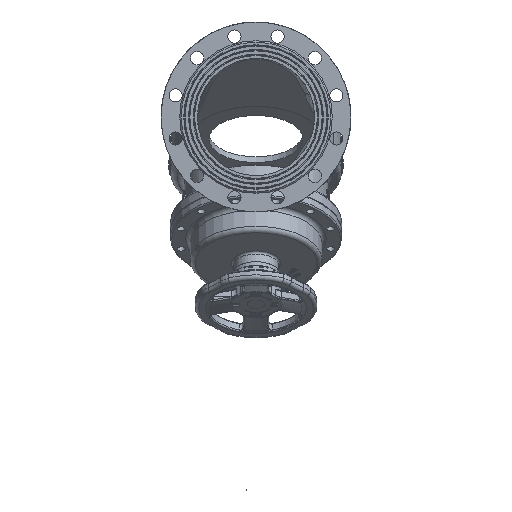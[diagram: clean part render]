
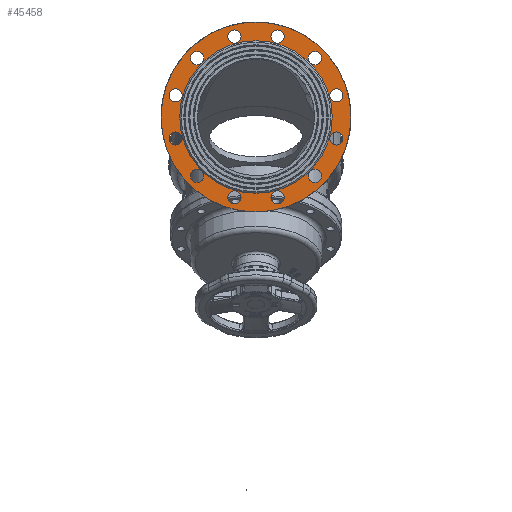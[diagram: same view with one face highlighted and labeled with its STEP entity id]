
A CAD part, left-side view. The second image highlights one B-rep face of the part: STEP entity #45458.
In plain terms, the highlighted planar face has unit normal (-1, 0, 0).
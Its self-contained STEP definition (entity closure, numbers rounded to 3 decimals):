
#45458=ADVANCED_FACE('',(#78143,#78145,#78147,#78149,#78151,#78153,#78155,#78157,
#78159,#78161,#78163,#78165,#78167,#78169),#78171,.T.);
#78143=FACE_BOUND('',#78144,.T.);
#78144=EDGE_LOOP('',(#147221));
#78145=FACE_BOUND('',#78146,.T.);
#78146=EDGE_LOOP('',(#147222));
#78147=FACE_BOUND('',#78148,.T.);
#78148=EDGE_LOOP('',(#147223));
#78149=FACE_BOUND('',#78150,.T.);
#78150=EDGE_LOOP('',(#147224));
#78151=FACE_BOUND('',#78152,.T.);
#78152=EDGE_LOOP('',(#147225));
#78153=FACE_BOUND('',#78154,.T.);
#78154=EDGE_LOOP('',(#147226));
#78155=FACE_BOUND('',#78156,.T.);
#78156=EDGE_LOOP('',(#147227));
#78157=FACE_BOUND('',#78158,.T.);
#78158=EDGE_LOOP('',(#147228));
#78159=FACE_BOUND('',#78160,.T.);
#78160=EDGE_LOOP('',(#147229));
#78161=FACE_BOUND('',#78162,.T.);
#78162=EDGE_LOOP('',(#147230));
#78163=FACE_BOUND('',#78164,.T.);
#78164=EDGE_LOOP('',(#147231));
#78165=FACE_BOUND('',#78166,.T.);
#78166=EDGE_LOOP('',(#147232));
#78167=FACE_BOUND('',#78168,.T.);
#78168=EDGE_LOOP('',(#147233));
#78169=FACE_BOUND('',#78170,.T.);
#78170=EDGE_LOOP('',(#147234));
#78171=PLANE('',#78172);
#78172=AXIS2_PLACEMENT_3D('',#78173,#78174,#78175);
#78173=CARTESIAN_POINT('',(-720.256,-0.822,-180.224));
#78174=DIRECTION('',(-1.,0.,0.));
#78175=DIRECTION('',(0.,0.,1.));
#147221=ORIENTED_EDGE('',*,*,#162914,.F.);
#147222=ORIENTED_EDGE('',*,*,#162901,.F.);
#147223=ORIENTED_EDGE('',*,*,#162902,.F.);
#147224=ORIENTED_EDGE('',*,*,#162903,.F.);
#147225=ORIENTED_EDGE('',*,*,#162904,.F.);
#147226=ORIENTED_EDGE('',*,*,#162905,.F.);
#147227=ORIENTED_EDGE('',*,*,#162906,.F.);
#147228=ORIENTED_EDGE('',*,*,#162907,.F.);
#147229=ORIENTED_EDGE('',*,*,#162908,.F.);
#147230=ORIENTED_EDGE('',*,*,#162909,.F.);
#147231=ORIENTED_EDGE('',*,*,#162910,.F.);
#147232=ORIENTED_EDGE('',*,*,#162911,.F.);
#147233=ORIENTED_EDGE('',*,*,#162912,.F.);
#147234=ORIENTED_EDGE('',*,*,#162915,.T.);
#162901=EDGE_CURVE('',#223213,#223213,#223214,.T.);
#162902=EDGE_CURVE('',#223215,#223215,#223216,.T.);
#162903=EDGE_CURVE('',#223217,#223217,#223218,.T.);
#162904=EDGE_CURVE('',#223219,#223219,#223220,.T.);
#162905=EDGE_CURVE('',#223221,#223221,#223222,.T.);
#162906=EDGE_CURVE('',#223223,#223223,#223224,.T.);
#162907=EDGE_CURVE('',#223225,#223225,#223226,.T.);
#162908=EDGE_CURVE('',#223227,#223227,#223228,.T.);
#162909=EDGE_CURVE('',#223229,#223229,#223230,.T.);
#162910=EDGE_CURVE('',#223231,#223231,#223232,.T.);
#162911=EDGE_CURVE('',#223233,#223233,#223234,.T.);
#162912=EDGE_CURVE('',#223235,#223235,#223236,.T.);
#162914=EDGE_CURVE('',#223239,#223239,#223240,.F.);
#162915=EDGE_CURVE('',#223241,#223241,#223242,.F.);
#223213=VERTEX_POINT('',#244323);
#223214=CIRCLE('',#244324,14.);
#223215=VERTEX_POINT('',#244328);
#223216=CIRCLE('',#244329,14.);
#223217=VERTEX_POINT('',#244333);
#223218=CIRCLE('',#244334,14.);
#223219=VERTEX_POINT('',#244338);
#223220=CIRCLE('',#244339,14.);
#223221=VERTEX_POINT('',#244343);
#223222=CIRCLE('',#244344,14.);
#223223=VERTEX_POINT('',#244348);
#223224=CIRCLE('',#244349,14.);
#223225=VERTEX_POINT('',#244353);
#223226=CIRCLE('',#244354,14.);
#223227=VERTEX_POINT('',#244358);
#223228=CIRCLE('',#244359,14.);
#223229=VERTEX_POINT('',#244363);
#223230=CIRCLE('',#244364,14.);
#223231=VERTEX_POINT('',#244368);
#223232=CIRCLE('',#244369,14.);
#223233=VERTEX_POINT('',#244373);
#223234=CIRCLE('',#244374,14.);
#223235=VERTEX_POINT('',#244378);
#223236=CIRCLE('',#244379,14.);
#223239=VERTEX_POINT('',#244388);
#223240=CIRCLE('',#244389,202.5);
#223241=VERTEX_POINT('',#244393);
#223242=CIRCLE('',#244394,162.5);
#244323=CARTESIAN_POINT('',(-720.256,124.689,-10.382));
#244324=AXIS2_PLACEMENT_3D('',#244325,#244326,#244327);
#244325=CARTESIAN_POINT('',(-720.256,124.689,3.618));
#244326=DIRECTION('',(-1.,0.,0.));
#244327=DIRECTION('',(0.,0.,1.));
#244328=CARTESIAN_POINT('',(-720.256,170.629,-89.953));
#244329=AXIS2_PLACEMENT_3D('',#244330,#244331,#244332);
#244330=CARTESIAN_POINT('',(-720.256,170.629,-75.953));
#244331=DIRECTION('',(-1.,0.,0.));
#244332=DIRECTION('',(0.,0.,1.));
#244333=CARTESIAN_POINT('',(-720.256,170.629,-181.834));
#244334=AXIS2_PLACEMENT_3D('',#244335,#244336,#244337);
#244335=CARTESIAN_POINT('',(-720.256,170.629,-167.834));
#244336=DIRECTION('',(-1.,0.,0.));
#244337=DIRECTION('',(0.,0.,1.));
#244338=CARTESIAN_POINT('',(-720.256,124.689,-261.405));
#244339=AXIS2_PLACEMENT_3D('',#244340,#244341,#244342);
#244340=CARTESIAN_POINT('',(-720.256,124.689,-247.405));
#244341=DIRECTION('',(-1.,0.,0.));
#244342=DIRECTION('',(0.,0.,1.));
#244343=CARTESIAN_POINT('',(-720.256,45.118,-307.345));
#244344=AXIS2_PLACEMENT_3D('',#244345,#244346,#244347);
#244345=CARTESIAN_POINT('',(-720.256,45.118,-293.345));
#244346=DIRECTION('',(-1.,0.,0.));
#244347=DIRECTION('',(0.,0.,1.));
#244348=CARTESIAN_POINT('',(-720.256,-46.763,-307.345));
#244349=AXIS2_PLACEMENT_3D('',#244350,#244351,#244352);
#244350=CARTESIAN_POINT('',(-720.256,-46.763,-293.345));
#244351=DIRECTION('',(-1.,0.,0.));
#244352=DIRECTION('',(0.,0.,1.));
#244353=CARTESIAN_POINT('',(-720.256,-126.334,-261.405));
#244354=AXIS2_PLACEMENT_3D('',#244355,#244356,#244357);
#244355=CARTESIAN_POINT('',(-720.256,-126.334,-247.405));
#244356=DIRECTION('',(-1.,0.,0.));
#244357=DIRECTION('',(0.,0.,1.));
#244358=CARTESIAN_POINT('',(-720.256,-172.274,-181.834));
#244359=AXIS2_PLACEMENT_3D('',#244360,#244361,#244362);
#244360=CARTESIAN_POINT('',(-720.256,-172.274,-167.834));
#244361=DIRECTION('',(-1.,0.,0.));
#244362=DIRECTION('',(0.,0.,1.));
#244363=CARTESIAN_POINT('',(-720.256,-172.274,-89.953));
#244364=AXIS2_PLACEMENT_3D('',#244365,#244366,#244367);
#244365=CARTESIAN_POINT('',(-720.256,-172.274,-75.953));
#244366=DIRECTION('',(-1.,0.,0.));
#244367=DIRECTION('',(0.,0.,1.));
#244368=CARTESIAN_POINT('',(-720.256,-126.334,-10.382));
#244369=AXIS2_PLACEMENT_3D('',#244370,#244371,#244372);
#244370=CARTESIAN_POINT('',(-720.256,-126.334,3.618));
#244371=DIRECTION('',(-1.,0.,0.));
#244372=DIRECTION('',(0.,0.,1.));
#244373=CARTESIAN_POINT('',(-720.256,-46.763,35.558));
#244374=AXIS2_PLACEMENT_3D('',#244375,#244376,#244377);
#244375=CARTESIAN_POINT('',(-720.256,-46.763,49.558));
#244376=DIRECTION('',(-1.,0.,0.));
#244377=DIRECTION('',(0.,0.,1.));
#244378=CARTESIAN_POINT('',(-720.256,45.118,35.558));
#244379=AXIS2_PLACEMENT_3D('',#244380,#244381,#244382);
#244380=CARTESIAN_POINT('',(-720.256,45.118,49.558));
#244381=DIRECTION('',(-1.,0.,0.));
#244382=DIRECTION('',(0.,0.,1.));
#244388=CARTESIAN_POINT('',(-720.256,-0.822,-324.393));
#244389=AXIS2_PLACEMENT_3D('',#244390,#244391,#244392);
#244390=CARTESIAN_POINT('',(-720.256,-0.822,-121.893));
#244391=DIRECTION('',(-1.,0.,0.));
#244392=DIRECTION('',(0.,0.,1.));
#244393=CARTESIAN_POINT('',(-720.256,-0.822,40.607));
#244394=AXIS2_PLACEMENT_3D('',#244395,#244396,#244397);
#244395=CARTESIAN_POINT('',(-720.256,-0.822,-121.893));
#244396=DIRECTION('',(-1.,0.,0.));
#244397=DIRECTION('',(0.,0.,1.));
